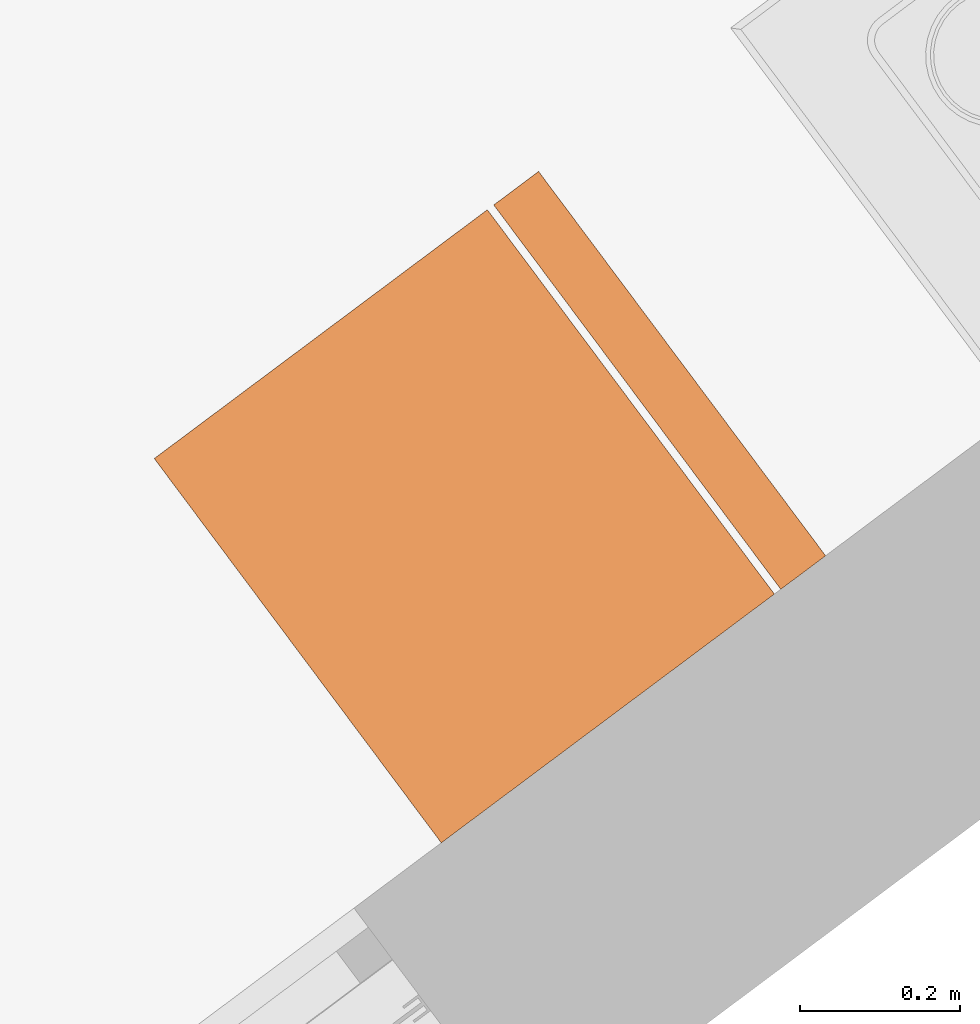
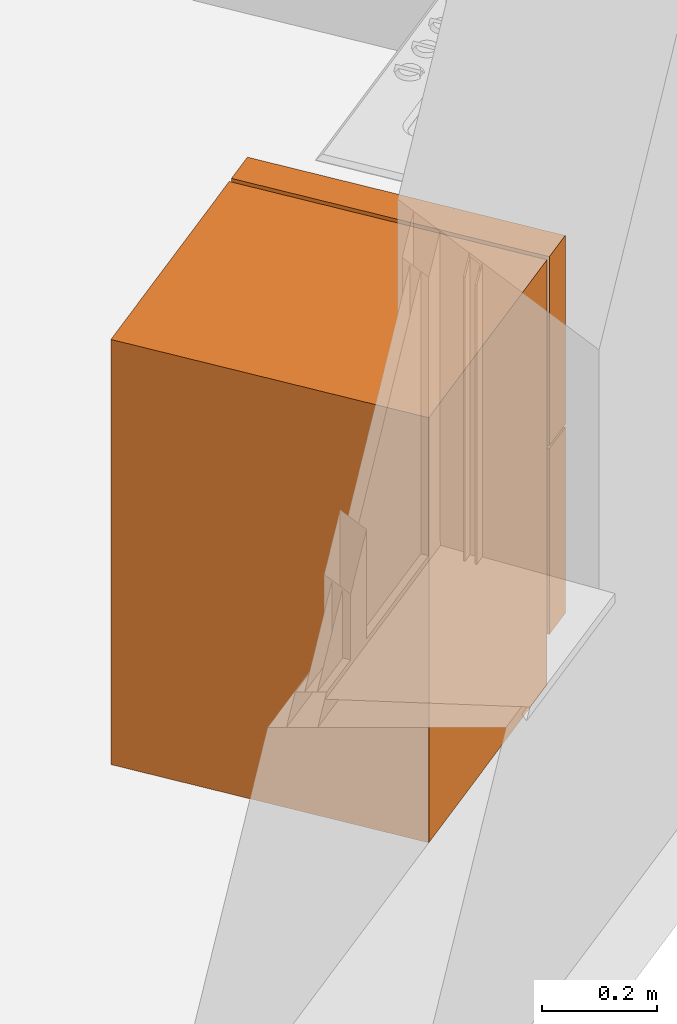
# One storey, part 169 of 195: 1 proxy.
"""IFC2X3 building model written with IfcOpenShell, lengths in metres."""

from ifc_helpers import new_model, entity, si_unit, converted_unit, derived_unit, money_unit, direction, frame, origin_with_axes, place, context, subcontext, project, spatial, open_shell, faceted_brep, surface_model, source, transform, mapped, type_object, element, save


model = new_model("IFC2X3")

# Units and contexts
model_context = context("Model", 3, precision=1e-05, world=origin_with_axes(), true_north=direction((0.0, 1.0)))
body_context = subcontext(model_context, "Body", "Model", "MODEL_VIEW")
ifc_project = project(units=[si_unit("LENGTHUNIT", "METRE"), si_unit("AREAUNIT", "SQUARE_METRE"), si_unit("VOLUMEUNIT", "CUBIC_METRE"), converted_unit("PLANEANGLEUNIT", "DEGREE", entity("IfcPlaneAngleMeasure", 0.0174532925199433), si_unit("PLANEANGLEUNIT", "RADIAN"), dimensions=[0, 0, 0, 0, 0, 0, 0]), money_unit("CHF"), converted_unit("TIMEUNIT", "Year", entity("IfcTimeMeasure", 31557600.0), si_unit("TIMEUNIT", "SECOND"), dimensions=[0, 0, 1, 0, 0, 0, 0]), si_unit("MASSUNIT", "GRAM", prefix="KILO"), si_unit("THERMODYNAMICTEMPERATUREUNIT", "DEGREE_CELSIUS"), si_unit("LUMINOUSINTENSITYUNIT", "LUMEN"), si_unit("ENERGYUNIT", "JOULE", prefix="MEGA"), derived_unit("THERMALCONDUCTANCEUNIT", [(si_unit("POWERUNIT", "WATT"), 1), (si_unit("LENGTHUNIT", "METRE"), -1), (si_unit("THERMODYNAMICTEMPERATUREUNIT", "KELVIN"), -1)]), derived_unit("SPECIFICHEATCAPACITYUNIT", [(si_unit("ENERGYUNIT", "JOULE"), 1), (si_unit("MASSUNIT", "GRAM", prefix="KILO"), -1), (si_unit("THERMODYNAMICTEMPERATUREUNIT", "KELVIN"), -1)]), derived_unit("MASSDENSITYUNIT", [(si_unit("MASSUNIT", "GRAM", prefix="KILO"), 1), (si_unit("VOLUMEUNIT", "CUBIC_METRE"), -1)])], contexts=[model_context])

# Site, building, storey
site_placement = place(None, origin_with_axes())
site = spatial("IfcSite", under=ifc_project, at=site_placement, Name="Site", CompositionType="ELEMENT")
building_placement = place(site_placement, origin_with_axes())
building = spatial("IfcBuilding", under=site, at=building_placement, Name="Bâtiment", CompositionType="ELEMENT")
storey_placement = place(building_placement, origin_with_axes())
storey = spatial("IfcBuildingStorey", under=building, at=storey_placement, Name="rdc", CompositionType="ELEMENT", Elevation=0.0)

# Proxy
building_element_proxy_type = type_object("IfcBuildingElementProxyType", PredefinedType="NOTDEFINED")
shared_shape = source(origin_with_axes(), body_context, "Body", "SurfaceModel", [
    faceted_brep([(0.0, 0.08, 0.1), (0.6, 0.08, 0.1), (0.6, 0.08, 0.9), (0.0, 0.08, 0.9), (0.0, 0.6, 0.1), (0.6, 0.6, 0.1), (0.6, 0.6, 0.9), (0.0, 0.6, 0.9)], [[[0, 1, 2, 3]], [[0, 4, 5, 1]], [[1, 5, 6, 2]], [[3, 2, 6, 7]], [[4, 0, 3, 7]], [[5, 4, 7, 6]]]),
    faceted_brep([(0.0, 0.08, 0.0), (0.6, 0.08, 0.0), (0.6, 0.08, 0.1), (0.0, 0.08, 0.1), (0.0, 0.6, 0.0), (0.6, 0.6, 0.0), (0.6, 0.6, 0.1), (0.0, 0.6, 0.1)], [[[0, 1, 2, 3]], [[0, 4, 5, 1]], [[1, 5, 6, 2]], [[3, 2, 6, 7]], [[4, 0, 3, 7]], [[5, 4, 7, 6]]]),
    faceted_brep([(0.0, 0.07, 0.1), (0.6, 0.07, 0.1), (0.6, 0.0, 0.1), (0.0, 0.0, 0.1), (0.0, 0.07000000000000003, 0.494), (0.6, 0.07000000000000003, 0.494), (0.6, 0.0, 0.494), (0.0, 0.0, 0.494)], [[[0, 1, 2, 3]], [[0, 4, 5, 1]], [[1, 5, 6, 2]], [[3, 2, 6, 7]], [[4, 0, 3, 7]], [[5, 4, 7, 6]]]),
    faceted_brep([(0.0, 0.07, 0.5), (0.6, 0.07, 0.5), (0.6, 0.0, 0.5), (0.0, 0.0, 0.5), (0.0, 0.07000000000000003, 0.9), (0.6, 0.07000000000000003, 0.9), (0.6, 0.0, 0.9), (0.0, 0.0, 0.9)], [[[0, 1, 2, 3]], [[0, 4, 5, 1]], [[1, 5, 6, 2]], [[3, 2, 6, 7]], [[4, 0, 3, 7]], [[5, 4, 7, 6]]]),
    surface_model("IfcShellBasedSurfaceModel", [(0.6, -0.03, 0.3), (0.6, -0.03, 0.4940000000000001), (0.6, 0.0, 0.4940000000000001), (0.6, 0.0, 0.3)], [open_shell([[[0, 1, 2, 3]]])]),
    surface_model("IfcShellBasedSurfaceModel", [(0.6, -0.03, 0.3), (0.6, -0.03, 0.4940000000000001), (0.57, -0.03, 0.4940000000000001), (0.57, -0.03, 0.3)], [open_shell([[[0, 1, 2, 3]]])]),
    surface_model("IfcShellBasedSurfaceModel", [(0.6, -0.03, 0.5), (0.6, -0.03, 0.7), (0.6, 0.0, 0.7), (0.6, 0.0, 0.5)], [open_shell([[[0, 1, 2, 3]]])]),
    surface_model("IfcShellBasedSurfaceModel", [(0.6, -0.03, 0.5), (0.6, -0.03, 0.7), (0.57, -0.03, 0.7), (0.57, -0.03, 0.5)], [open_shell([[[0, 1, 2, 3]]])]),
])
proxy_placement = place(storey_placement, frame((9538.794982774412, -1086.201194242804, 57.7), z_axis=(0.0, 0.0, 1.0), x_axis=(-0.5984138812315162, 0.8011871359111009, 0.0)))
element("IfcBuildingElementProxy", 1, at=proxy_placement, inside=storey, type_object=building_element_proxy_type, Name="Obj.-019", context=body_context, shape_type="MappedRepresentation", body=[
    mapped(shared_shape, transform((0.0, 0.0, 0.0))),
])

save(model, "model.ifc")
